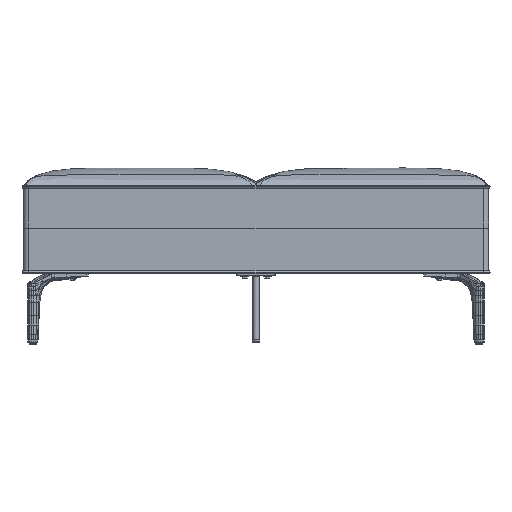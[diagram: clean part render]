
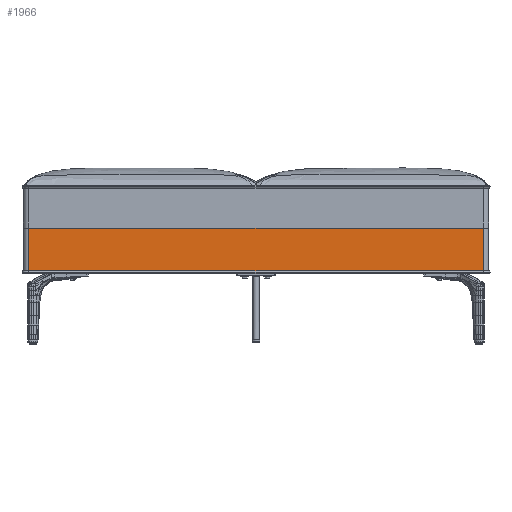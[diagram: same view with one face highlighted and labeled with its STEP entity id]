
A CAD part, left-side view. The second image highlights one B-rep face of the part: STEP entity #1966.
In plain terms, the highlighted planar face has unit normal (-1, 0, 0).
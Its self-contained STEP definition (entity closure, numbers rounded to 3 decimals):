
#1966=ADVANCED_FACE('',(#3832),#25881,.T.);
#3832=FACE_OUTER_BOUND('',#5767,.T.);
#5767=EDGE_LOOP('',(#13974,#13975,#13976,#13977));
#13974=ORIENTED_EDGE('',*,*,#18449,.T.);
#13975=ORIENTED_EDGE('',*,*,#18448,.F.);
#13976=ORIENTED_EDGE('',*,*,#18450,.T.);
#13977=ORIENTED_EDGE('',*,*,#18451,.T.);
#18448=EDGE_CURVE('',#25259,#25261,#22803,.T.);
#18449=EDGE_CURVE('',#25263,#25261,#19283,.T.);
#18450=EDGE_CURVE('',#25259,#25256,#22804,.T.);
#18451=EDGE_CURVE('',#25256,#25263,#22805,.T.);
#19283=(
BOUNDED_CURVE()
B_SPLINE_CURVE(1,(#379852,#379853),.UNSPECIFIED.,.F.,.F.)
B_SPLINE_CURVE_WITH_KNOTS((2,2),(0.,1161.005),.UNSPECIFIED.)
CURVE()
GEOMETRIC_REPRESENTATION_ITEM()
RATIONAL_B_SPLINE_CURVE((1.,1.))
REPRESENTATION_ITEM('')
);
#22803=B_SPLINE_CURVE_WITH_KNOTS('',1,(#379850,#379851),.UNSPECIFIED.,.F.,
 .F.,(2,2),(0.,108.872),.UNSPECIFIED.);
#22804=B_SPLINE_CURVE_WITH_KNOTS('',3,(#379854,#379855,#379856,#379857),
 .UNSPECIFIED.,.F.,.F.,(4,4),(0.,1161.005),.UNSPECIFIED.);
#22805=B_SPLINE_CURVE_WITH_KNOTS('',1,(#379858,#379859),.UNSPECIFIED.,.F.,
 .F.,(2,2),(0.,108.872),.UNSPECIFIED.);
#25256=VERTEX_POINT('',#379675);
#25259=VERTEX_POINT('',#379678);
#25261=VERTEX_POINT('',#379680);
#25263=VERTEX_POINT('',#379682);
#25881=PLANE('',#27438);
#27438=AXIS2_PLACEMENT_3D('',#367733,#27651,$);
#27651=DIRECTION('',(-1.,0.,0.));
#367733=CARTESIAN_POINT('',(-593.933,696.723,172.993));
#379675=CARTESIAN_POINT('',(-593.933,580.502,292.872));
#379678=CARTESIAN_POINT('',(-593.933,-580.502,292.872));
#379680=CARTESIAN_POINT('',(-593.933,-580.502,184.));
#379682=CARTESIAN_POINT('',(-593.933,580.502,184.));
#379850=CARTESIAN_POINT('',(-593.933,-580.502,292.872));
#379851=CARTESIAN_POINT('',(-593.933,-580.502,184.));
#379852=CARTESIAN_POINT('',(-593.933,580.502,184.));
#379853=CARTESIAN_POINT('',(-593.933,-580.502,184.));
#379854=CARTESIAN_POINT('',(-593.933,-580.502,292.872));
#379855=CARTESIAN_POINT('',(-593.933,-193.501,292.872));
#379856=CARTESIAN_POINT('',(-593.933,193.501,292.872));
#379857=CARTESIAN_POINT('',(-593.933,580.502,292.872));
#379858=CARTESIAN_POINT('',(-593.933,580.502,292.872));
#379859=CARTESIAN_POINT('',(-593.933,580.502,184.));
